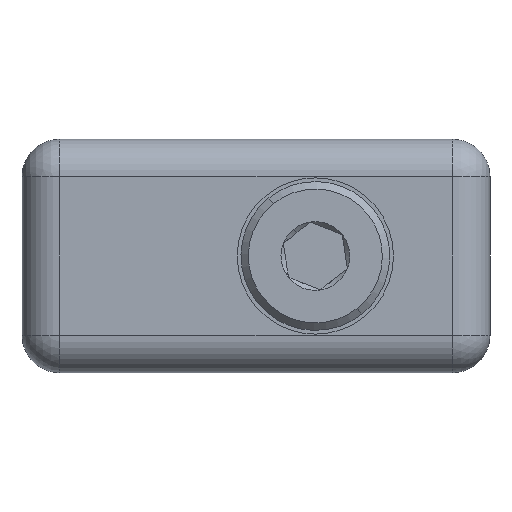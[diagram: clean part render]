
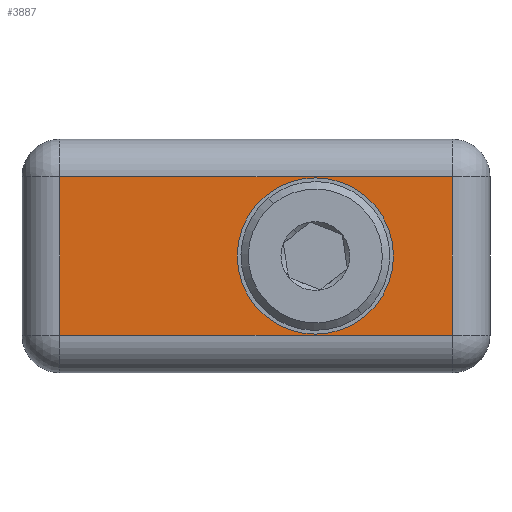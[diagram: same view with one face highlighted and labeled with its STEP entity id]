
A CAD part, left-side view. The second image highlights one B-rep face of the part: STEP entity #3887.
In plain terms, the highlighted planar face has unit normal (-1, 0, 0).
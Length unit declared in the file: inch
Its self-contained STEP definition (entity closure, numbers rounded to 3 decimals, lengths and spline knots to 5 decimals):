
#2294=CARTESIAN_POINT('',(0.,0.,0.));
#2295=DIRECTION('',(1.,0.,0.));
#2296=DIRECTION('',(0.,0.,-1.));
#2297=AXIS2_PLACEMENT_3D('',#2294,#2295,#2296);
#2299=CARTESIAN_POINT('',(0.,0.,0.));
#2300=DIRECTION('',(1.,0.,0.));
#2301=DIRECTION('',(0.,0.,1.));
#2302=AXIS2_PLACEMENT_3D('',#2299,#2300,#2301);
#2304=DIRECTION('',(0.,1.,0.));
#2305=VECTOR('',#2304,1.038);
#2306=CARTESIAN_POINT('',(0.,-0.362,-0.209));
#2307=LINE('',#2306,#2305);
#2331=DIRECTION('',(0.,0.,1.));
#2332=VECTOR('',#2331,0.418);
#2333=CARTESIAN_POINT('',(0.,0.676,-0.209));
#2334=LINE('',#2333,#2332);
#2354=DIRECTION('',(0.,-1.,0.));
#2355=VECTOR('',#2354,1.038);
#2356=CARTESIAN_POINT('',(0.,0.676,0.209));
#2357=LINE('',#2356,#2355);
#2404=DIRECTION('',(0.,0.,-1.));
#2405=VECTOR('',#2404,0.418);
#2406=CARTESIAN_POINT('',(0.,-0.362,0.209));
#2407=LINE('',#2406,#2405);
#2504=CARTESIAN_POINT('',(0.,-0.362,-0.209));
#2505=CARTESIAN_POINT('',(0.,0.676,-0.209));
#2506=VERTEX_POINT('',#2504);
#2507=VERTEX_POINT('',#2505);
#2526=CARTESIAN_POINT('',(0.,0.676,0.209));
#2528=VERTEX_POINT('',#2526);
#2598=CARTESIAN_POINT('',(0.,-0.362,0.209));
#2599=VERTEX_POINT('',#2598);
#2604=CARTESIAN_POINT('',(0.,0.,-0.20669));
#2605=CARTESIAN_POINT('',(0.,0.,0.20669));
#2606=VERTEX_POINT('',#2604);
#2607=VERTEX_POINT('',#2605);
#3868=CARTESIAN_POINT('',(0.,0.776,0.309));
#3869=DIRECTION('',(1.,0.,0.));
#3870=DIRECTION('',(0.,1.,0.));
#3871=AXIS2_PLACEMENT_3D('',#3868,#3869,#3870);
#3872=PLANE('',#3871);
#3874=ORIENTED_EDGE('',*,*,#3873,.T.);
#3876=ORIENTED_EDGE('',*,*,#3875,.T.);
#3878=ORIENTED_EDGE('',*,*,#3877,.T.);
#3880=ORIENTED_EDGE('',*,*,#3879,.T.);
#3881=EDGE_LOOP('',(#3874,#3876,#3878,#3880));
#3882=FACE_OUTER_BOUND('',#3881,.F.);
#3883=ORIENTED_EDGE('',*,*,#3847,.F.);
#3884=ORIENTED_EDGE('',*,*,#3862,.F.);
#3885=EDGE_LOOP('',(#3883,#3884));
#3886=FACE_BOUND('',#3885,.F.);
#2298=CIRCLE('',#2297,0.20669);
#2303=CIRCLE('',#2302,0.20669);
#3847=EDGE_CURVE('',#2606,#2607,#2298,.T.);
#3862=EDGE_CURVE('',#2607,#2606,#2303,.T.);
#3873=EDGE_CURVE('',#2506,#2507,#2307,.T.);
#3875=EDGE_CURVE('',#2507,#2528,#2334,.T.);
#3877=EDGE_CURVE('',#2528,#2599,#2357,.T.);
#3879=EDGE_CURVE('',#2599,#2506,#2407,.T.);
#3887=ADVANCED_FACE('',(#3882,#3886),#3872,.F.);
